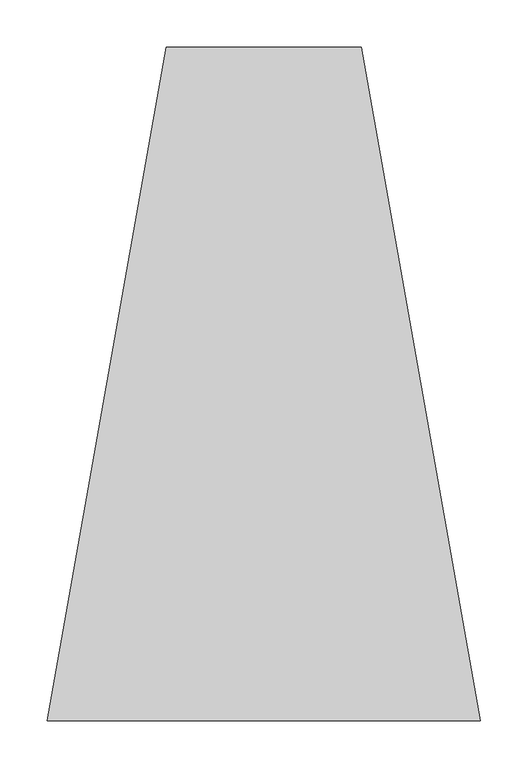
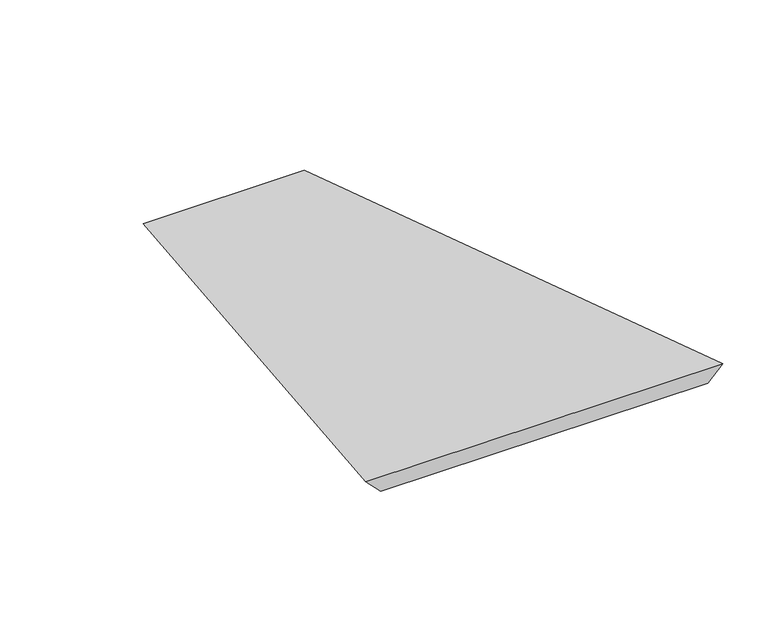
"""IFC4 building model written with IfcOpenShell, lengths in millimetres: proxy geometry, GRADIENT^TABLE 7_PYRAMID BASES-CTR BASE RIGHT SIDE."""

from ifc_helpers import new_model, si_unit, origin, place, context, project, spatial, faceted_brep, source, transform, mapped, element, save


def generic_models_23fda1b8(model_context):
    return source(origin(), model_context, "Body", "Brep", [
        faceted_brep([(1905.0, -711.2, -457.2), (2030.4037487, 0.0, -582.6037487), (2049.7476256, 0.0, -601.9476256), (1924.343877, -711.2, -476.543877), (2362.2, -711.2, -457.2), (2236.7962513, 0.0, -582.6037487), (2217.4523744, 0.0, -601.9476256), (2342.856123, -711.2, -476.543877)], [[[0, 1, 2, 3]], [[4, 5, 1, 0]], [[2, 1, 5, 6]], [[6, 7, 3, 2]], [[0, 3, 7, 4]], [[5, 4, 7, 6]]]),
    ])


if __name__ == "__main__":
    model = new_model("IFC4")
    model_context = context("Model", 3, world=origin())
    ifc_project = project(units=[si_unit("LENGTHUNIT", "METRE", prefix="MILLI")], contexts=[model_context])
    site = spatial("IfcSite", under=ifc_project)
    building = spatial("IfcBuilding", under=site)
    placement = place(None, origin())
    generic_models_shape = generic_models_23fda1b8(model_context)
    element("IfcBuildingElementProxy", 1, Name="GRADIENT^TABLE 7_PYRAMID BASES-CTR BASE RIGHT SIDE", ObjectType="GRADIENT^TABLE 7_PYRAMID BASES-CTR BASE RIGHT SIDE", at=placement, inside=building, context=model_context, shape_type="MappedRepresentation", body=[
        mapped(generic_models_shape, transform((0.0, 0.0, 0.0), x_axis=(1.0, 0.0, 0.0), y_axis=(0.0, 1.0, 0.0), z_axis=(0.0, 0.0, 1.0))),
    ])
    save(model, "model.ifc")
